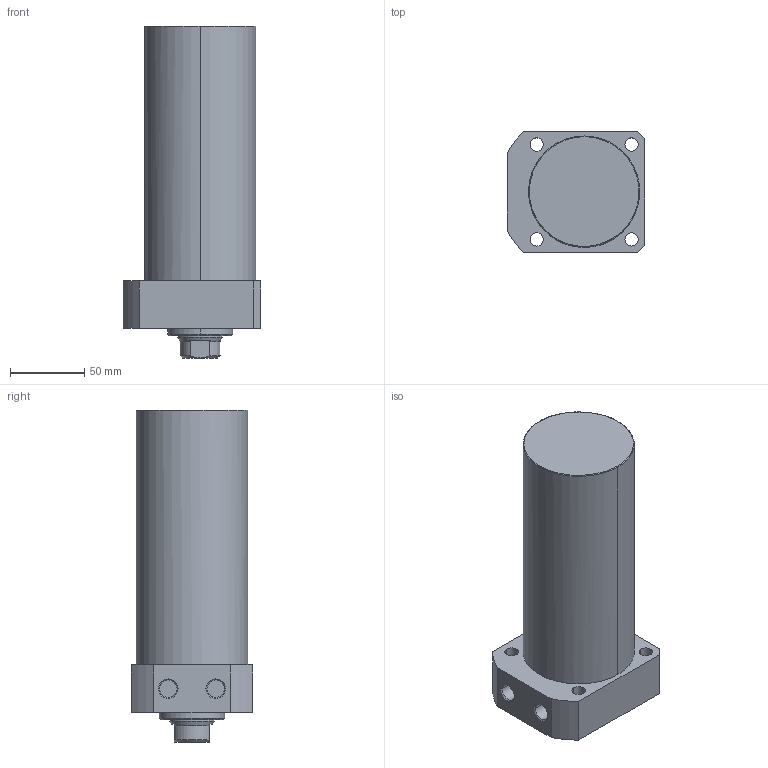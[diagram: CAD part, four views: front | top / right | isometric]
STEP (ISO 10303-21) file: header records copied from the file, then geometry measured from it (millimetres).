
FILE_DESCRIPTION((' '),'2;1');
FILE_NAME( 'TLLR-075CA-135.STEP.stp', '2025-10-24T16:35:07', (' '), ('--- Datakit www.datakit.com---'), ' Datakit CrossCadWare V2024.1 Dec 21 2023', 'Mastercam 2025', ' ');
FILE_SCHEMA(('AUTOMOTIVE_DESIGN { 1 0 10303 214 1 1 1 1 }'));
Length unit declared in the file: millimetre
Products named in the file (1): TLLR-075CA-135
Bounding box: 93 x 82 x 224 mm (x, y, z)
Volume: 994972.9 mm3; surface area: 74187.8 mm2
Topology: 1 solids, 1 shells, 63 faces, 177 edges, 122 vertices
Faces by surface type: cylinder 28, plane 19, cone 14, torus 2
Entity records: 2168 total; most frequent: CARTESIAN_POINT 405, DIRECTION 400, ORIENTED_EDGE 350, EDGE_CURVE 175, AXIS2_PLACEMENT_3D 169, VERTEX_POINT 122, CIRCLE 105, EDGE_LOOP 79
